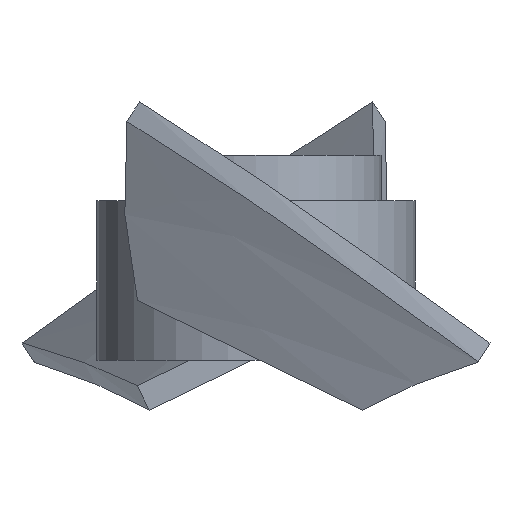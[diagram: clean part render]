
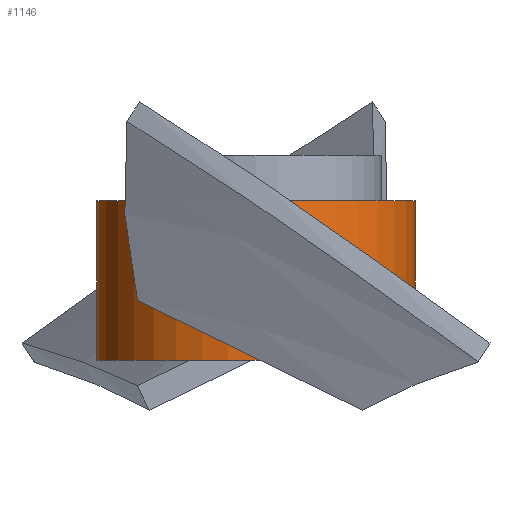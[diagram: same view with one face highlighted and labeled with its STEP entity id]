
A CAD part, left-side view. The second image highlights one B-rep face of the part: STEP entity #1146.
In plain terms, the highlighted cylindrical face has radius 14 mm (diameter 28 mm), a full revolution.
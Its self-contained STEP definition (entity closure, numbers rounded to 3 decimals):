
#1010 = PLANE('',#1011);
#1011 = AXIS2_PLACEMENT_3D('',#1012,#1013,#1014);
#1012 = CARTESIAN_POINT('',(0.,0.,21.5)
  );
#1013 = DIRECTION('',(0.,0.,1.));
#1014 = DIRECTION('',(1.,0.,0.));
#1099 = PLANE('',#1100);
#1100 = AXIS2_PLACEMENT_3D('',#1101,#1102,#1103);
#1101 = CARTESIAN_POINT('',(0.,0.,7.5)
  );
#1102 = DIRECTION('',(0.,0.,1.));
#1103 = DIRECTION('',(1.,0.,0.));
#1115 = EDGE_CURVE('',#1116,#1116,#1118,.T.);
#1116 = VERTEX_POINT('',#1117);
#1117 = CARTESIAN_POINT('',(14.,0.,7.5));
#1118 = SURFACE_CURVE('',#1119,(#1124,#1131),.PCURVE_S1.);
#1119 = CIRCLE('',#1120,14.);
#1120 = AXIS2_PLACEMENT_3D('',#1121,#1122,#1123);
#1121 = CARTESIAN_POINT('',(0.,0.,7.5));
#1122 = DIRECTION('',(0.,0.,1.));
#1123 = DIRECTION('',(1.,0.,0.));
#1124 = PCURVE('',#1099,#1125);
#1125 = DEFINITIONAL_REPRESENTATION('',(#1126),#1130);
#1126 = CIRCLE('',#1127,14.);
#1127 = AXIS2_PLACEMENT_2D('',#1128,#1129);
#1128 = CARTESIAN_POINT('',(0.,0.));
#1129 = DIRECTION('',(1.,0.));
#1130 = ( GEOMETRIC_REPRESENTATION_CONTEXT(2) 
PARAMETRIC_REPRESENTATION_CONTEXT() REPRESENTATION_CONTEXT('2D SPACE',''
  ) );
#1131 = PCURVE('',#1132,#1137);
#1132 = CYLINDRICAL_SURFACE('',#1133,14.);
#1133 = AXIS2_PLACEMENT_3D('',#1134,#1135,#1136);
#1134 = CARTESIAN_POINT('',(0.,0.,7.5));
#1135 = DIRECTION('',(-0.,-0.,-1.));
#1136 = DIRECTION('',(1.,0.,0.));
#1137 = DEFINITIONAL_REPRESENTATION('',(#1138),#1142);
#1138 = LINE('',#1139,#1140);
#1139 = CARTESIAN_POINT('',(-0.,0.));
#1140 = VECTOR('',#1141,1.);
#1141 = DIRECTION('',(-1.,0.));
#1142 = ( GEOMETRIC_REPRESENTATION_CONTEXT(2) 
PARAMETRIC_REPRESENTATION_CONTEXT() REPRESENTATION_CONTEXT('2D SPACE',''
  ) );
#1146 = ADVANCED_FACE('',(#1147),#1132,.T.);
#1147 = FACE_BOUND('',#1148,.F.);
#1148 = EDGE_LOOP('',(#1149,#1172,#1194,#1195));
#1149 = ORIENTED_EDGE('',*,*,#1150,.T.);
#1150 = EDGE_CURVE('',#1116,#1151,#1153,.T.);
#1151 = VERTEX_POINT('',#1152);
#1152 = CARTESIAN_POINT('',(14.,0.,21.5));
#1153 = SEAM_CURVE('',#1154,(#1158,#1165),.PCURVE_S1.);
#1154 = LINE('',#1155,#1156);
#1155 = CARTESIAN_POINT('',(14.,0.,7.5));
#1156 = VECTOR('',#1157,1.);
#1157 = DIRECTION('',(0.,0.,1.));
#1158 = PCURVE('',#1132,#1159);
#1159 = DEFINITIONAL_REPRESENTATION('',(#1160),#1164);
#1160 = LINE('',#1161,#1162);
#1161 = CARTESIAN_POINT('',(-0.,0.));
#1162 = VECTOR('',#1163,1.);
#1163 = DIRECTION('',(-0.,-1.));
#1164 = ( GEOMETRIC_REPRESENTATION_CONTEXT(2) 
PARAMETRIC_REPRESENTATION_CONTEXT() REPRESENTATION_CONTEXT('2D SPACE',''
  ) );
#1165 = PCURVE('',#1132,#1166);
#1166 = DEFINITIONAL_REPRESENTATION('',(#1167),#1171);
#1167 = LINE('',#1168,#1169);
#1168 = CARTESIAN_POINT('',(-6.283,0.));
#1169 = VECTOR('',#1170,1.);
#1170 = DIRECTION('',(-0.,-1.));
#1171 = ( GEOMETRIC_REPRESENTATION_CONTEXT(2) 
PARAMETRIC_REPRESENTATION_CONTEXT() REPRESENTATION_CONTEXT('2D SPACE',''
  ) );
#1172 = ORIENTED_EDGE('',*,*,#1173,.T.);
#1173 = EDGE_CURVE('',#1151,#1151,#1174,.T.);
#1174 = SURFACE_CURVE('',#1175,(#1180,#1187),.PCURVE_S1.);
#1175 = CIRCLE('',#1176,14.);
#1176 = AXIS2_PLACEMENT_3D('',#1177,#1178,#1179);
#1177 = CARTESIAN_POINT('',(0.,0.,21.5));
#1178 = DIRECTION('',(0.,0.,1.));
#1179 = DIRECTION('',(1.,0.,0.));
#1180 = PCURVE('',#1132,#1181);
#1181 = DEFINITIONAL_REPRESENTATION('',(#1182),#1186);
#1182 = LINE('',#1183,#1184);
#1183 = CARTESIAN_POINT('',(-0.,-14.));
#1184 = VECTOR('',#1185,1.);
#1185 = DIRECTION('',(-1.,0.));
#1186 = ( GEOMETRIC_REPRESENTATION_CONTEXT(2) 
PARAMETRIC_REPRESENTATION_CONTEXT() REPRESENTATION_CONTEXT('2D SPACE',''
  ) );
#1187 = PCURVE('',#1010,#1188);
#1188 = DEFINITIONAL_REPRESENTATION('',(#1189),#1193);
#1189 = CIRCLE('',#1190,14.);
#1190 = AXIS2_PLACEMENT_2D('',#1191,#1192);
#1191 = CARTESIAN_POINT('',(0.,0.));
#1192 = DIRECTION('',(1.,0.));
#1193 = ( GEOMETRIC_REPRESENTATION_CONTEXT(2) 
PARAMETRIC_REPRESENTATION_CONTEXT() REPRESENTATION_CONTEXT('2D SPACE',''
  ) );
#1194 = ORIENTED_EDGE('',*,*,#1150,.F.);
#1195 = ORIENTED_EDGE('',*,*,#1115,.F.);
